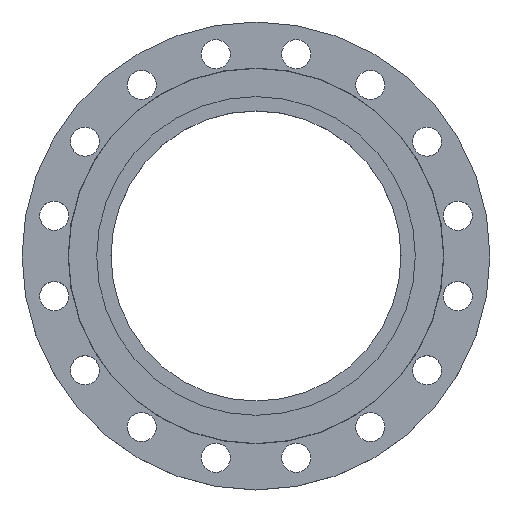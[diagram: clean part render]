
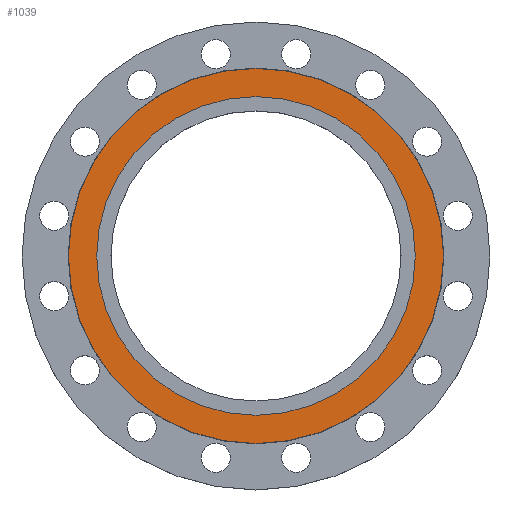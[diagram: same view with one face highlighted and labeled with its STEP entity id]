
A CAD part, top view. The second image highlights one B-rep face of the part: STEP entity #1039.
In plain terms, the highlighted planar face has unit normal (0, 0, 1).
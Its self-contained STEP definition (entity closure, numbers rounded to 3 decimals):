
#187 = CIRCLE ( 'NONE', #254, 197.5 ) ;
#254 = AXIS2_PLACEMENT_3D ( 'NONE', #794, #791, #788 ) ;
#329 = EDGE_LOOP ( 'NONE', ( #987, #956 ) ) ;
#406 = VERTEX_POINT ( 'NONE', #1625 ) ;
#451 = CIRCLE ( 'NONE', #459, 232.5 ) ;
#459 = AXIS2_PLACEMENT_3D ( 'NONE', #1477, #1475, #1474 ) ;
#526 = VERTEX_POINT ( 'NONE', #1542 ) ;
#537 = VERTEX_POINT ( 'NONE', #1540 ) ;
#538 = AXIS2_PLACEMENT_3D ( 'NONE', #1121, #1110, #1104 ) ;
#545 = VERTEX_POINT ( 'NONE', #1533 ) ;
#623 = EDGE_CURVE ( 'NONE', #406, #526, #451, .T. ) ;
#680 = CIRCLE ( 'NONE', #854, 197.5 ) ;
#688 = EDGE_CURVE ( 'NONE', #545, #537, #680, .T. ) ;
#762 = DIRECTION ( 'NONE',  ( -1., 0., 0. ) ) ;
#763 = DIRECTION ( 'NONE',  ( 0., 0., -1. ) ) ;
#766 = CARTESIAN_POINT ( 'NONE',  ( 0., 0., 0. ) ) ;
#788 = DIRECTION ( 'NONE',  ( -1., 0., 0. ) ) ;
#791 = DIRECTION ( 'NONE',  ( 0., 0., -1. ) ) ;
#794 = CARTESIAN_POINT ( 'NONE',  ( 0., 0., 0. ) ) ;
#854 = AXIS2_PLACEMENT_3D ( 'NONE', #1419, #1418, #1417 ) ;
#858 = EDGE_LOOP ( 'NONE', ( #958, #976 ) ) ;
#956 = ORIENTED_EDGE ( 'NONE', *, *, #623, .F. ) ;
#958 = ORIENTED_EDGE ( 'NONE', *, *, #688, .T. ) ;
#976 = ORIENTED_EDGE ( 'NONE', *, *, #1215, .T. ) ;
#987 = ORIENTED_EDGE ( 'NONE', *, *, #1250, .F. ) ;
#1039 = ADVANCED_FACE ( 'NONE', ( #1124, #1114 ), #1118, .T. ) ;
#1104 = DIRECTION ( 'NONE',  ( 1., 0., 0. ) ) ;
#1110 = DIRECTION ( 'NONE',  ( 0., 0., 1. ) ) ;
#1114 = FACE_BOUND ( 'NONE', #858, .T. ) ;
#1116 = AXIS2_PLACEMENT_3D ( 'NONE', #766, #763, #762 ) ;
#1118 = PLANE ( 'NONE',  #538 ) ;
#1120 = CIRCLE ( 'NONE', #1116, 232.5 ) ;
#1121 = CARTESIAN_POINT ( 'NONE',  ( 0., 0., 0. ) ) ;
#1124 = FACE_OUTER_BOUND ( 'NONE', #329, .T. ) ;
#1215 = EDGE_CURVE ( 'NONE', #537, #545, #187, .T. ) ;
#1250 = EDGE_CURVE ( 'NONE', #526, #406, #1120, .T. ) ;
#1417 = DIRECTION ( 'NONE',  ( -1., 0., 0. ) ) ;
#1418 = DIRECTION ( 'NONE',  ( 0., 0., -1. ) ) ;
#1419 = CARTESIAN_POINT ( 'NONE',  ( 0., 0., 0. ) ) ;
#1474 = DIRECTION ( 'NONE',  ( -1., 0., 0. ) ) ;
#1475 = DIRECTION ( 'NONE',  ( 0., 0., -1. ) ) ;
#1477 = CARTESIAN_POINT ( 'NONE',  ( 0., 0., 0. ) ) ;
#1533 = CARTESIAN_POINT ( 'NONE',  ( -197.5, 0., 0. ) ) ;
#1540 = CARTESIAN_POINT ( 'NONE',  ( 197.5, 0., 0. ) ) ;
#1542 = CARTESIAN_POINT ( 'NONE',  ( -232.5, 0., 0. ) ) ;
#1625 = CARTESIAN_POINT ( 'NONE',  ( 232.5, 0., 0. ) ) ;
